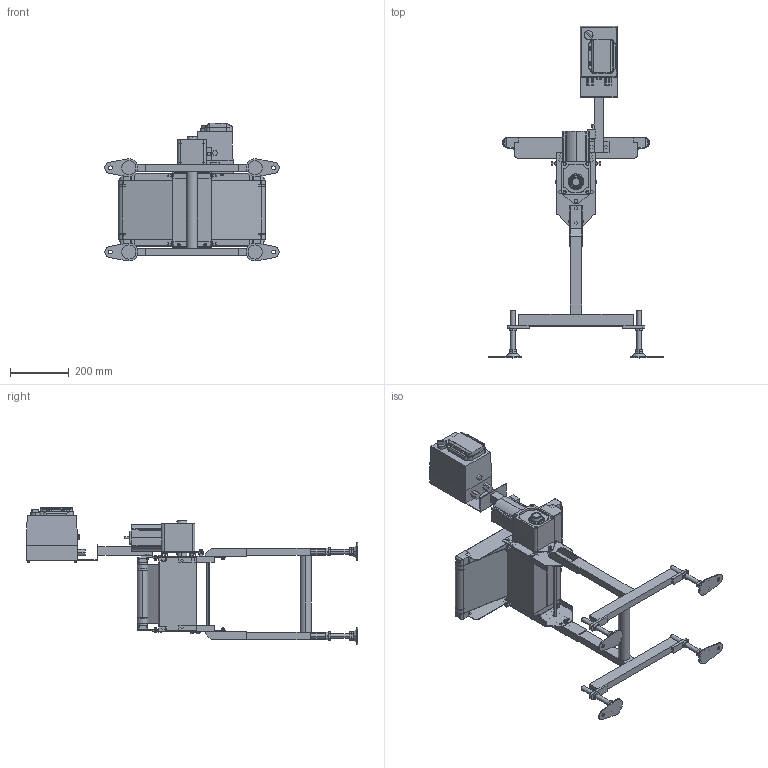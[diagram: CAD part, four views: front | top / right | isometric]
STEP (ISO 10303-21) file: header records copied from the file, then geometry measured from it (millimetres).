
FILE_DESCRIPTION (( 'STEP AP214' ), '1' );
FILE_NAME ('FSDHS-200-500-L.STEP', '2023-04-20T09:16:53', ( '' ), ( '' ), 'SwSTEP 2.0', 'SolidWorks 2017', '' );
FILE_SCHEMA (( 'AUTOMOTIVE_DESIGN' ));
Length unit declared in the file: millimetre
Products named in the file (1): FSDHS-200-500-L
Bounding box: 594 x 1131 x 469.99 mm (x, y, z)
Volume: 13443853.8 mm3; surface area: 2235746.9 mm2
Topology: 46 solids, 48 shells, 1758 faces, 4365 edges, 2866 vertices
Faces by surface type: plane 1175, cylinder 540, cone 29, bspline 14
Entity records: 73980 total; most frequent: CARTESIAN_POINT 11192, DIRECTION 8967, ORIENTED_EDGE 8726, EDGE_CURVE 4363, LINE 3103, VECTOR 3103, AXIS2_PLACEMENT_3D 2932, VERTEX_POINT 2866
